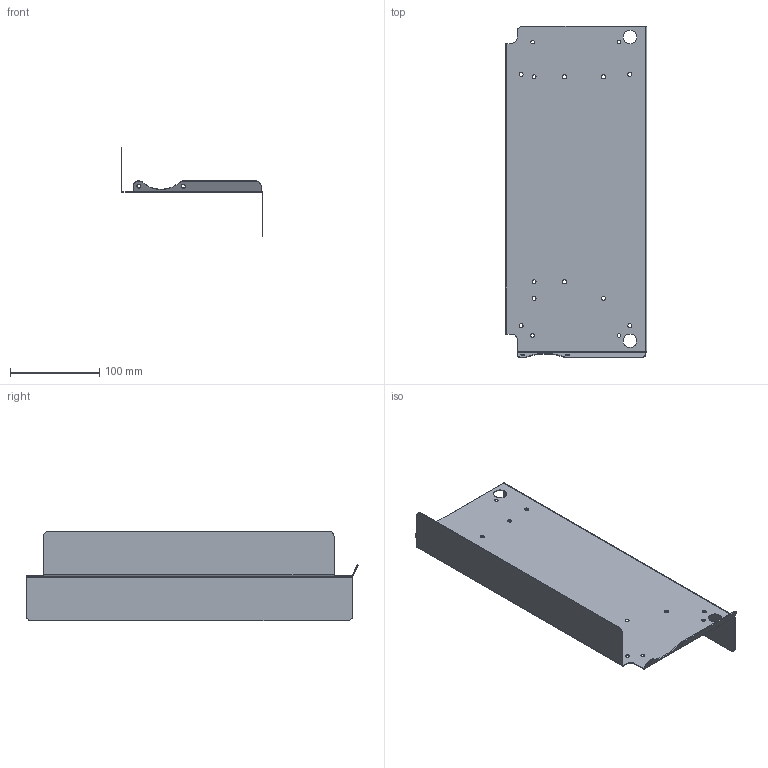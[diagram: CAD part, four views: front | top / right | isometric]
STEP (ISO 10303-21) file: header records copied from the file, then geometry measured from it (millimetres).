
FILE_DESCRIPTION(/* description */ (''),/* implementation_level */ '2;1');
FILE_NAME(/* name */ 'C:\Users\Windermac\Desktop\MASTER 47 Ah FoMoCo Tray\LiBCM005 - Charger Mount\Charger Mount - RevA.stp',/* time_stamp */ '2022-09-19T03:50:49-04:00',/* author */ ('Windermac'),/* organization */ (''),/* preprocessor_version */ 'ST-DEVELOPER v16.5',/* originating_system */ 'Autodesk Inventor 2017',/* authorisation */ '');
FILE_SCHEMA (('AUTOMOTIVE_DESIGN { 1 0 10303 214 3 1 1 }'));
Length unit declared in the file: inch
Products named in the file (1): Charger Mount
Bounding box: 158.75 x 372.59 x 100.79 mm (x, y, z)
Volume: 75474.7 mm3; surface area: 187004.5 mm2
Topology: 1 solids, 1 shells, 66 faces, 168 edges, 104 vertices
Faces by surface type: cylinder 36, plane 30
Full cylindrical faces by diameter (mm): 4 x4, 4.5 x13, 15 x2
Entity records: 2006 total; most frequent: DIRECTION 356, CARTESIAN_POINT 320, ORIENTED_EDGE 298, EDGE_CURVE 149, AXIS2_PLACEMENT_3D 140, EDGE_LOOP 123, VERTEX_POINT 104, LINE 76
